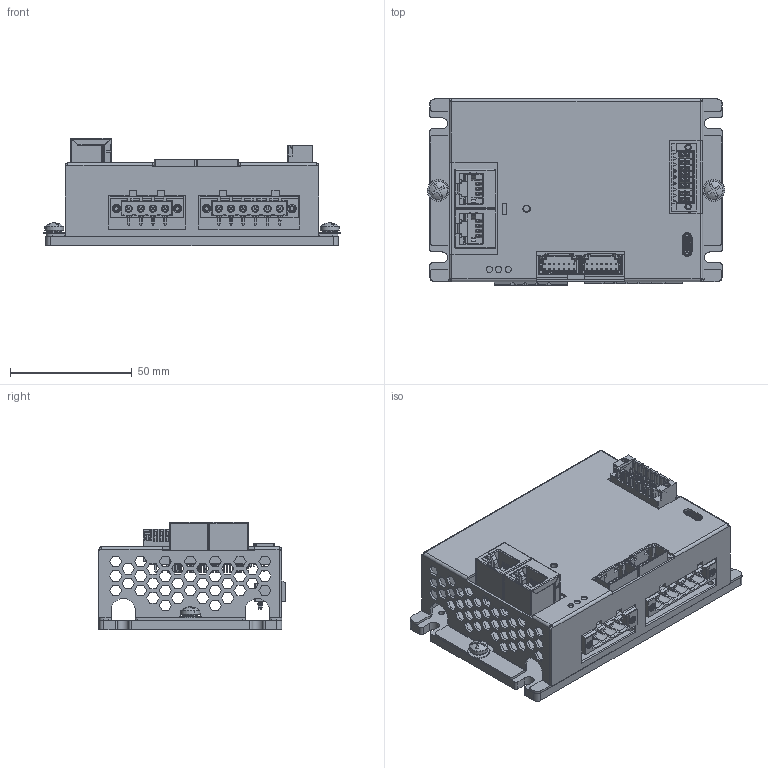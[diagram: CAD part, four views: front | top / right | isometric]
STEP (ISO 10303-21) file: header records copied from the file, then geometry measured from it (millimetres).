
FILE_DESCRIPTION (( 'STEP AP214' ), '1' );
FILE_NAME ('CDMD-2AXX-D60-ZE-P1-000-000 俋倛芞.STEP', '2025-02-26T04:56:36', ( '' ), ( '' ), 'SwSTEP 2.0', 'SolidWorks 2016', '' );
FILE_SCHEMA (( 'AUTOMOTIVE_DESIGN' ));
Length unit declared in the file: millimetre
Products named in the file (12): CDMD-2A05-D60-ZE-P1-100-001 CDMD-2A05-D60-ZE-散热器; ﾊｮﾗﾖｲﾛﾅﾌﾍｷﾗ鮗ﾏﾂﾝｶ､ GB-T 9074.4 M4X6; CON6-2EDGRM-5_0; CON14-DF51K-14DP-2DSA; CON4-2EDGRM-5_0-04P-14-100A_H_; CDMD-2A05-D60-ZE-P1-100-003 CDMD-2A05-D60-ZE-奻裔; CON16-TYPE-C-FUS658-FSSBKM; CDMD-2AXX-D60-ZE-P1-000-000 俋倛芞; mdbdsvcadc01_d1; CON14-RJ45-FRJ45058-1300K6K11A1; mdbd2a10pwrbc01_d1; CON16-0156-1216-BK
Assembly tree (14 placements, depth 3):
  CDMD-2AXX-D60-ZE-P1-000-000 俋倛芞
    CDMD-2A05-D60-ZE-P1-100-001 CDMD-2A05-D60-ZE-散热器
    CDMD-2A05-D60-ZE-P1-100-003 CDMD-2A05-D60-ZE-奻裔
    mdbd2a10pwrbc01_d1
      CON6-2EDGRM-5_0
      CON4-2EDGRM-5_0-04P-14-100A_H_
    mdbdsvcadc01_d1
      CON14-DF51K-14DP-2DSA  x2
      CON16-0156-1216-BK
      CON16-TYPE-C-FUS658-FSSBKM
      CON14-RJ45-FRJ45058-1300K6K11A1  x2
    ﾊｮﾗﾖｲﾛﾅﾌﾍｷﾗ鮗ﾏﾂﾝｶ､ GB-T 9074.4 M4X6  x2
Bounding box: 122 x 76.4 x 44.04 mm (x, y, z)
Volume: 62677.2 mm3; surface area: 69209.8 mm2
Topology: 23 solids, 31 shells, 6023 faces, 17140 edges, 11205 vertices
Faces by surface type: plane 4529, cylinder 1253, bspline 111, cone 86, torus 40, sphere 4
Entity records: 198549 total; most frequent: CARTESIAN_POINT 59731, ORIENTED_EDGE 29552, DIRECTION 23279, EDGE_CURVE 14776, VECTOR 10667, LINE 10667, VERTEX_POINT 9718, AXIS2_PLACEMENT_3D 6306
